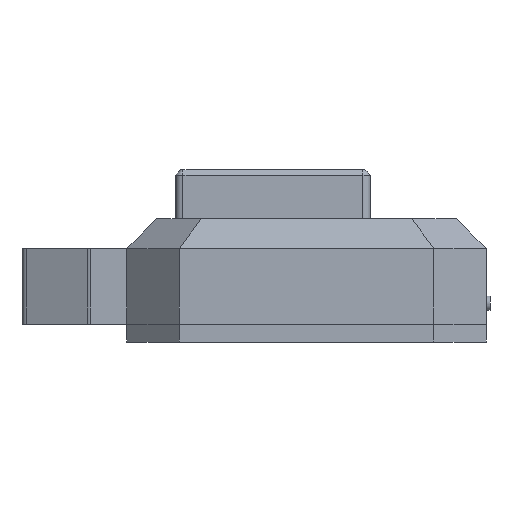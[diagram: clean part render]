
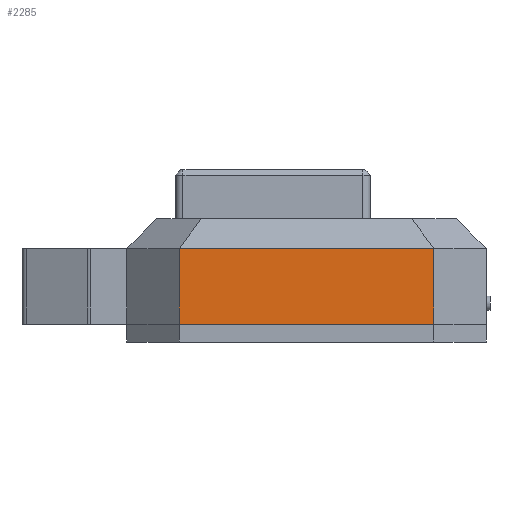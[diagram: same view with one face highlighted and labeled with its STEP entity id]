
A CAD part, left-side view. The second image highlights one B-rep face of the part: STEP entity #2285.
In plain terms, the highlighted planar face has unit normal (-1, 0, 0).
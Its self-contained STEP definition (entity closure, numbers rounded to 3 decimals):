
#82 = PLANE('',#83);
#83 = AXIS2_PLACEMENT_3D('',#84,#85,#86);
#84 = CARTESIAN_POINT('',(0.,0.,2.4));
#85 = DIRECTION('',(0.,0.,1.));
#86 = DIRECTION('',(1.,0.,-0.));
#110 = PLANE('',#111);
#111 = AXIS2_PLACEMENT_3D('',#112,#113,#114);
#112 = CARTESIAN_POINT('',(-27.,-17.,2.4));
#113 = DIRECTION('',(0.707,0.707,-0.));
#114 = DIRECTION('',(0.707,-0.707,0.));
#457 = EDGE_CURVE('',#458,#460,#462,.T.);
#458 = VERTEX_POINT('',#459);
#459 = CARTESIAN_POINT('',(-27.,17.,2.4));
#460 = VERTEX_POINT('',#461);
#461 = CARTESIAN_POINT('',(-27.,-17.,2.4));
#462 = SURFACE_CURVE('',#463,(#467,#474),.PCURVE_S1.);
#463 = LINE('',#464,#465);
#464 = CARTESIAN_POINT('',(-27.,17.,2.4));
#465 = VECTOR('',#466,1.);
#466 = DIRECTION('',(0.,-1.,0.));
#467 = PCURVE('',#82,#468);
#468 = DEFINITIONAL_REPRESENTATION('',(#469),#473);
#469 = LINE('',#470,#471);
#470 = CARTESIAN_POINT('',(-27.,17.));
#471 = VECTOR('',#472,1.);
#472 = DIRECTION('',(0.,-1.));
#473 = ( GEOMETRIC_REPRESENTATION_CONTEXT(2) 
PARAMETRIC_REPRESENTATION_CONTEXT() REPRESENTATION_CONTEXT('2D SPACE',''
  ) );
#474 = PCURVE('',#475,#480);
#475 = PLANE('',#476);
#476 = AXIS2_PLACEMENT_3D('',#477,#478,#479);
#477 = CARTESIAN_POINT('',(-27.,17.,2.4));
#478 = DIRECTION('',(1.,0.,-0.));
#479 = DIRECTION('',(0.,-1.,0.));
#480 = DEFINITIONAL_REPRESENTATION('',(#481),#485);
#481 = LINE('',#482,#483);
#482 = CARTESIAN_POINT('',(0.,0.));
#483 = VECTOR('',#484,1.);
#484 = DIRECTION('',(1.,0.));
#485 = ( GEOMETRIC_REPRESENTATION_CONTEXT(2) 
PARAMETRIC_REPRESENTATION_CONTEXT() REPRESENTATION_CONTEXT('2D SPACE',''
  ) );
#992 = PLANE('',#993);
#993 = AXIS2_PLACEMENT_3D('',#994,#995,#996);
#994 = CARTESIAN_POINT('',(-20.,24.,2.4));
#995 = DIRECTION('',(0.707,-0.707,0.));
#996 = DIRECTION('',(-0.707,-0.707,0.));
#1677 = EDGE_CURVE('',#460,#1678,#1680,.T.);
#1678 = VERTEX_POINT('',#1679);
#1679 = CARTESIAN_POINT('',(-27.,-17.,12.5));
#1680 = SURFACE_CURVE('',#1681,(#1685,#1692),.PCURVE_S1.);
#1681 = LINE('',#1682,#1683);
#1682 = CARTESIAN_POINT('',(-27.,-17.,2.4));
#1683 = VECTOR('',#1684,1.);
#1684 = DIRECTION('',(0.,0.,1.));
#1685 = PCURVE('',#110,#1686);
#1686 = DEFINITIONAL_REPRESENTATION('',(#1687),#1691);
#1687 = LINE('',#1688,#1689);
#1688 = CARTESIAN_POINT('',(0.,0.));
#1689 = VECTOR('',#1690,1.);
#1690 = DIRECTION('',(0.,-1.));
#1691 = ( GEOMETRIC_REPRESENTATION_CONTEXT(2) 
PARAMETRIC_REPRESENTATION_CONTEXT() REPRESENTATION_CONTEXT('2D SPACE',''
  ) );
#1692 = PCURVE('',#475,#1693);
#1693 = DEFINITIONAL_REPRESENTATION('',(#1694),#1698);
#1694 = LINE('',#1695,#1696);
#1695 = CARTESIAN_POINT('',(34.,0.));
#1696 = VECTOR('',#1697,1.);
#1697 = DIRECTION('',(0.,-1.));
#1698 = ( GEOMETRIC_REPRESENTATION_CONTEXT(2) 
PARAMETRIC_REPRESENTATION_CONTEXT() REPRESENTATION_CONTEXT('2D SPACE',''
  ) );
#2285 = ADVANCED_FACE('',(#2286),#475,.F.);
#2286 = FACE_BOUND('',#2287,.F.);
#2287 = EDGE_LOOP('',(#2288,#2311,#2336,#2337));
#2288 = ORIENTED_EDGE('',*,*,#2289,.T.);
#2289 = EDGE_CURVE('',#458,#2290,#2292,.T.);
#2290 = VERTEX_POINT('',#2291);
#2291 = CARTESIAN_POINT('',(-27.,17.,12.5));
#2292 = SURFACE_CURVE('',#2293,(#2297,#2304),.PCURVE_S1.);
#2293 = LINE('',#2294,#2295);
#2294 = CARTESIAN_POINT('',(-27.,17.,2.4));
#2295 = VECTOR('',#2296,1.);
#2296 = DIRECTION('',(0.,0.,1.));
#2297 = PCURVE('',#475,#2298);
#2298 = DEFINITIONAL_REPRESENTATION('',(#2299),#2303);
#2299 = LINE('',#2300,#2301);
#2300 = CARTESIAN_POINT('',(0.,0.));
#2301 = VECTOR('',#2302,1.);
#2302 = DIRECTION('',(0.,-1.));
#2303 = ( GEOMETRIC_REPRESENTATION_CONTEXT(2) 
PARAMETRIC_REPRESENTATION_CONTEXT() REPRESENTATION_CONTEXT('2D SPACE',''
  ) );
#2304 = PCURVE('',#992,#2305);
#2305 = DEFINITIONAL_REPRESENTATION('',(#2306),#2310);
#2306 = LINE('',#2307,#2308);
#2307 = CARTESIAN_POINT('',(9.899,0.));
#2308 = VECTOR('',#2309,1.);
#2309 = DIRECTION('',(0.,-1.));
#2310 = ( GEOMETRIC_REPRESENTATION_CONTEXT(2) 
PARAMETRIC_REPRESENTATION_CONTEXT() REPRESENTATION_CONTEXT('2D SPACE',''
  ) );
#2311 = ORIENTED_EDGE('',*,*,#2312,.T.);
#2312 = EDGE_CURVE('',#2290,#1678,#2313,.T.);
#2313 = SURFACE_CURVE('',#2314,(#2318,#2325),.PCURVE_S1.);
#2314 = LINE('',#2315,#2316);
#2315 = CARTESIAN_POINT('',(-27.,17.,12.5));
#2316 = VECTOR('',#2317,1.);
#2317 = DIRECTION('',(0.,-1.,0.));
#2318 = PCURVE('',#475,#2319);
#2319 = DEFINITIONAL_REPRESENTATION('',(#2320),#2324);
#2320 = LINE('',#2321,#2322);
#2321 = CARTESIAN_POINT('',(0.,-10.1));
#2322 = VECTOR('',#2323,1.);
#2323 = DIRECTION('',(1.,0.));
#2324 = ( GEOMETRIC_REPRESENTATION_CONTEXT(2) 
PARAMETRIC_REPRESENTATION_CONTEXT() REPRESENTATION_CONTEXT('2D SPACE',''
  ) );
#2325 = PCURVE('',#2326,#2331);
#2326 = B_SPLINE_SURFACE_WITH_KNOTS('',1,1,(
    (#2327,#2328)
    ,(#2329,#2330
    )),.UNSPECIFIED.,.F.,.F.,.F.,(2,2),(2,2),(0.,34.),(0.,1.),
  .PIECEWISE_BEZIER_KNOTS.);
#2327 = CARTESIAN_POINT('',(-27.,17.,12.5));
#2328 = CARTESIAN_POINT('',(-23.,14.037,16.5));
#2329 = CARTESIAN_POINT('',(-27.,-17.,12.5));
#2330 = CARTESIAN_POINT('',(-23.,-14.037,16.5));
#2331 = DEFINITIONAL_REPRESENTATION('',(#2332),#2335);
#2332 = B_SPLINE_CURVE_WITH_KNOTS('',1,(#2333,#2334),.UNSPECIFIED.,.F.,
  .F.,(2,2),(0.,34.),.PIECEWISE_BEZIER_KNOTS.);
#2333 = CARTESIAN_POINT('',(0.,0.));
#2334 = CARTESIAN_POINT('',(34.,0.));
#2335 = ( GEOMETRIC_REPRESENTATION_CONTEXT(2) 
PARAMETRIC_REPRESENTATION_CONTEXT() REPRESENTATION_CONTEXT('2D SPACE',''
  ) );
#2336 = ORIENTED_EDGE('',*,*,#1677,.F.);
#2337 = ORIENTED_EDGE('',*,*,#457,.F.);
